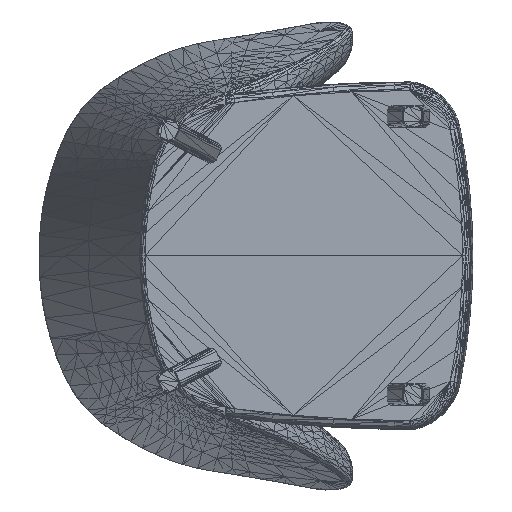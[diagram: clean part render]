
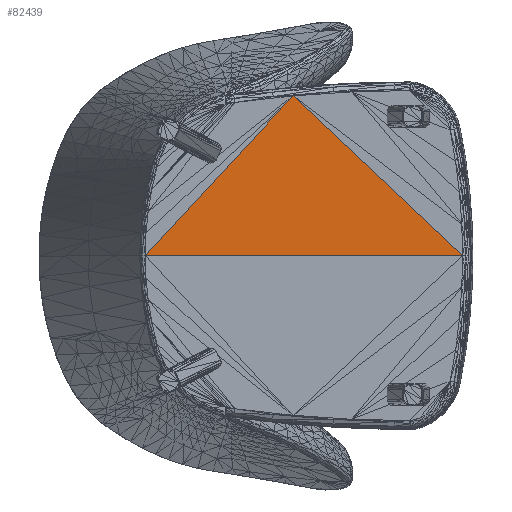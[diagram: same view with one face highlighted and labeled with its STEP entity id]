
A CAD part, top view. The second image highlights one B-rep face of the part: STEP entity #82439.
In plain terms, the highlighted planar face has unit normal (0, 0, 1).
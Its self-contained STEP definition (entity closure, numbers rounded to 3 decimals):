
#3074 = DIRECTION ( 'NONE',  ( 0., 0., -1. ) ) ;
#4461 = CARTESIAN_POINT ( 'NONE',  ( -158.514, 0., 0. ) ) ;
#11365 = VECTOR ( 'NONE', #59000, 1000. ) ;
#16026 = DIRECTION ( 'NONE',  ( -0.728, 0.686, 0. ) ) ;
#16607 = CARTESIAN_POINT ( 'NONE',  ( 96.684, 275.823, 0. ) ) ;
#34043 = PLANE ( 'NONE',  #109660 ) ;
#35779 = EDGE_CURVE ( 'NONE', #61371, #120795, #166201, .T. ) ;
#49169 = EDGE_CURVE ( 'NONE', #76874, #120795, #55477, .T. ) ;
#55477 = LINE ( 'NONE', #4461, #11365 ) ;
#59000 = DIRECTION ( 'NONE',  ( 0.679, 0.734, 0. ) ) ;
#59851 = DIRECTION ( 'NONE',  ( -1., 0., 0. ) ) ;
#61371 = VERTEX_POINT ( 'NONE', #99315 ) ;
#66837 = VECTOR ( 'NONE', #16026, 1000. ) ;
#75148 = DIRECTION ( 'NONE',  ( -1., 0., 0. ) ) ;
#76874 = VERTEX_POINT ( 'NONE', #167705 ) ;
#82439 = ADVANCED_FACE ( 'NONE', ( #143107 ), #34043, .F. ) ;
#87280 = CARTESIAN_POINT ( 'NONE',  ( 389.497, 0., 0. ) ) ;
#87551 = LINE ( 'NONE', #100959, #153214 ) ;
#88763 = ORIENTED_EDGE ( 'NONE', *, *, #49169, .F. ) ;
#95239 = EDGE_CURVE ( 'NONE', #61371, #76874, #87551, .T. ) ;
#99315 = CARTESIAN_POINT ( 'NONE',  ( 389.497, 0., 0. ) ) ;
#100959 = CARTESIAN_POINT ( 'NONE',  ( 389.497, 0., 0. ) ) ;
#101360 = ORIENTED_EDGE ( 'NONE', *, *, #95239, .F. ) ;
#109660 = AXIS2_PLACEMENT_3D ( 'NONE', #169940, #3074, #75148 ) ;
#120795 = VERTEX_POINT ( 'NONE', #16607 ) ;
#141662 = EDGE_LOOP ( 'NONE', ( #88763, #101360, #154569 ) ) ;
#143107 = FACE_OUTER_BOUND ( 'NONE', #141662, .T. ) ;
#153214 = VECTOR ( 'NONE', #59851, 1000. ) ;
#154569 = ORIENTED_EDGE ( 'NONE', *, *, #35779, .T. ) ;
#166201 = LINE ( 'NONE', #87280, #66837 ) ;
#167705 = CARTESIAN_POINT ( 'NONE',  ( -158.514, 0., 0. ) ) ;
#169940 = CARTESIAN_POINT ( 'NONE',  ( 0., 0., 0. ) ) ;
